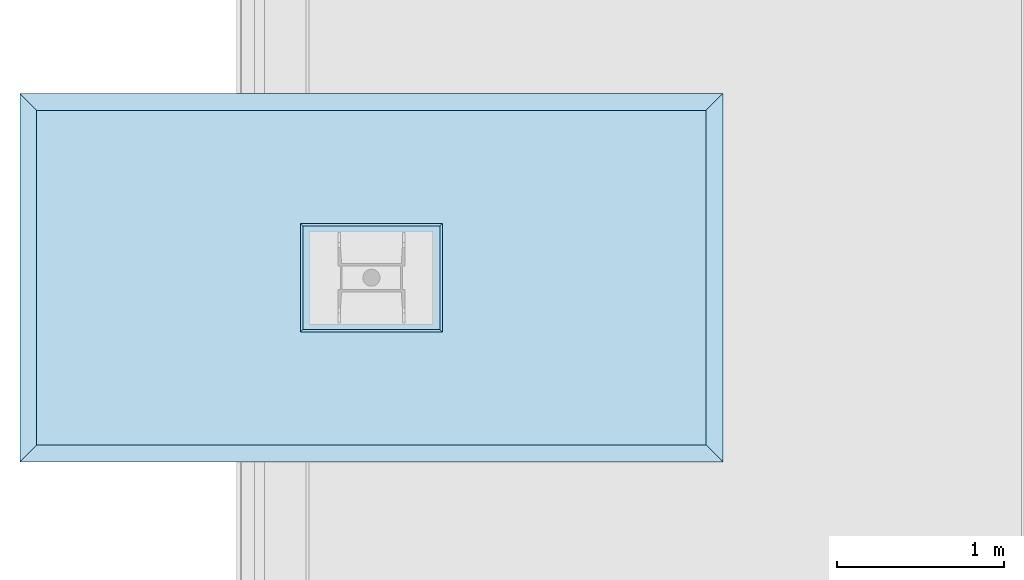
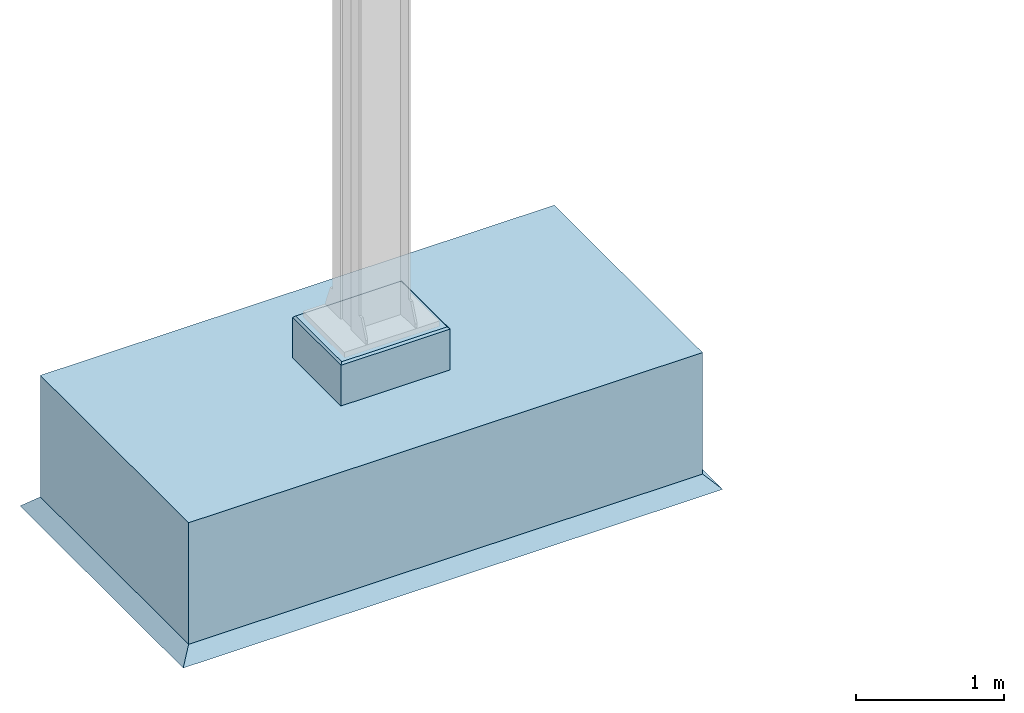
# One storey, incomplete: 1 slab.
"""IFC4 building model written with IfcOpenShell, lengths in metres."""

import ifcopenshell
import ifcopenshell.guid

model = None  # the IFC model being written
_history = None  # IfcOwnerHistory: only IFC2X3 demands one
_inside = {}  # id of a spatial element -> (the spatial element, [elements in it])
_under = {}  # id of a project, library or spatial element -> (it, [spatial elements below it])
_declared = {}  # id of a project -> (the project, [libraries it declares])
_typed = {}  # id of a type object -> (the type object, [elements of that type])
_made_of = {}  # id of a material, layer set ... -> (it, [elements and type objects made of it])


def new_model(schema):
    """Start an empty IFC model of exactly this schema.

    Asked for "IFC4X3", IfcOpenShell would pick the latest addendum, in which some entities
    have other attributes; the version numbers below select the first issue.
    IFC2X3 requires an IfcOwnerHistory on every rooted entity: one is made here for all.
    """
    global model, _history
    if schema == "IFC4X3":
        model = ifcopenshell.file(schema_version=(4, 3, 0, 0))
    else:
        model = ifcopenshell.file(schema=schema)
    _inside.clear()
    _under.clear()
    _declared.clear()
    _typed.clear()
    _made_of.clear()
    _history = None
    if model.schema == "IFC2X3":
        org = make("IfcOrganization", Name="unknown")
        user = make(
            "IfcPersonAndOrganization",
            ThePerson=make("IfcPerson", FamilyName="unknown"),
            TheOrganization=org,
        )
        app = make(
            "IfcApplication",
            ApplicationDeveloper=org,
            Version="unknown",
            ApplicationFullName="unknown",
            ApplicationIdentifier="unknown",
        )
        _history = make(
            "IfcOwnerHistory",
            OwningUser=user,
            OwningApplication=app,
            ChangeAction="ADDED",
            CreationDate=0,
        )
    return model


def make(cls, **values):
    """One entity of the class cls with the attributes given. An attribute that is None is left unset."""
    return model.create_entity(
        cls, **{name: value for name, value in values.items() if value is not None}
    )


def entity(cls, *values):
    """Any entity or typed value of the class cls, its attributes in the order of the schema. None: left unset."""
    e = model.create_entity(cls)
    for i, value in enumerate(values):
        if value is not None:
            e[i] = value
    return e


def rooted(cls, **values):
    """An entity with a GlobalId (a new one), such as an element, a storey or a relation."""
    return make(cls, GlobalId=ifcopenshell.guid.new(), OwnerHistory=_history, **values)


def si_unit(unit_type, name, prefix=None):
    """IfcSIUnit, for example si_unit("LENGTHUNIT", "METRE", prefix="MILLI")."""
    return make("IfcSIUnit", UnitType=unit_type, Prefix=prefix, Name=name)


def converted_unit(unit_type, name, factor, base, dimensions=None, offset=None):
    """IfcConversionBasedUnit, such as the inch: factor (a typed value) times the base unit."""
    return make(
        "IfcConversionBasedUnit"
        if offset is None
        else "IfcConversionBasedUnitWithOffset",
        ConversionOffset=offset,
        Dimensions=None
        if dimensions is None
        else entity("IfcDimensionalExponents", *dimensions),
        UnitType=unit_type,
        Name=name,
        ConversionFactor=make(
            "IfcMeasureWithUnit", ValueComponent=factor, UnitComponent=base
        ),
    )


def assignment(units):
    """IfcUnitAssignment: the units of a project."""
    return None if units is None else make("IfcUnitAssignment", Units=units)


def point(xyz):
    """IfcCartesianPoint."""
    return None if xyz is None else make("IfcCartesianPoint", Coordinates=xyz)


def direction(xyz):
    """IfcDirection."""
    return None if xyz is None else make("IfcDirection", DirectionRatios=xyz)


def frame(location, z_axis=None, x_axis=None):
    """IfcAxis2Placement3D, a coordinate frame: its origin and axes. An axis left out is left unset."""
    return make(
        "IfcAxis2Placement3D",
        Location=point(location),
        Axis=direction(z_axis),
        RefDirection=direction(x_axis),
    )


def origin():
    """The frame at (0, 0, 0) with its axes left unset."""
    return frame((0.0, 0.0, 0.0))


def place(relative_to, where):
    """IfcLocalPlacement: puts the frame where relative to a parent placement (None: the world)."""
    return make(
        "IfcLocalPlacement", PlacementRelTo=relative_to, RelativePlacement=where
    )


def context(
    kind, dimensions, precision=None, world=None, true_north=None, identifier=None
):
    """IfcGeometricRepresentationContext, for example the 3D "Model" context."""
    return make(
        "IfcGeometricRepresentationContext",
        ContextIdentifier=identifier,
        ContextType=kind,
        CoordinateSpaceDimension=dimensions,
        Precision=precision,
        WorldCoordinateSystem=world,
        TrueNorth=true_north,
    )


def subcontext(parent, identifier, kind, view, scale=None):
    """IfcGeometricRepresentationSubContext, for example "Body" below "Model"."""
    return make(
        "IfcGeometricRepresentationSubContext",
        ContextIdentifier=identifier,
        ContextType=kind,
        ParentContext=parent,
        TargetScale=scale,
        TargetView=view,
    )


def project(units=None, contexts=None):
    """IfcProject with its units and contexts."""
    return rooted(
        "IfcProject",
        Name="project",
        RepresentationContexts=contexts,
        UnitsInContext=assignment(units),
    )


def spatial(cls, under=None, at=None, **own):
    """A site, building, storey or space (cls), placed at a placement, below another one or the project."""
    s = rooted(cls, ObjectPlacement=at, **own)
    if under is not None:
        _under.setdefault(under.id(), (under, []))[1].append(s)
    return s


def point_list(points):
    """IfcCartesianPointList2D or 3D."""
    cls = (
        "IfcCartesianPointList2D" if len(points[0]) == 2 else "IfcCartesianPointList3D"
    )
    return make(cls, CoordList=points)


def polygons(points, faces, closed=None, point_numbers=None):
    """IfcPolygonalFaceSet: a face is its outer loop, then its inner loops; points numbered from 1."""
    made = []
    for loops in faces:
        if len(loops) == 1:
            made.append(make("IfcIndexedPolygonalFace", CoordIndex=loops[0]))
        else:
            made.append(
                make(
                    "IfcIndexedPolygonalFaceWithVoids",
                    CoordIndex=loops[0],
                    InnerCoordIndices=loops[1:],
                )
            )
    return make(
        "IfcPolygonalFaceSet",
        Coordinates=point_list(points),
        Closed=closed,
        Faces=made,
        PnIndex=point_numbers,
    )


def shape(context_of_items, identifier, shape_type, items):
    """IfcShapeRepresentation: the items that make up one representation, for example the "Body"."""
    return make(
        "IfcShapeRepresentation",
        ContextOfItems=context_of_items,
        RepresentationIdentifier=identifier,
        RepresentationType=shape_type,
        Items=items,
    )


def material(Name=None, Category=None):
    """IfcMaterial."""
    return make("IfcMaterial", Name=Name, Category=Category)


def made_of(thing, what):
    """Note that an element or type object is made of a material, layer set ...; save() writes the relation."""
    if what is not None:
        _made_of.setdefault(what.id(), (what, []))[1].append(thing)
    return thing


def type_object(cls, material=None, **own):
    """A type object (cls), such as IfcWallType, which elements share."""
    return made_of(rooted(cls, **own), material)


def element(
    cls,
    number,
    at=None,
    inside=None,
    cuts=None,
    type_object=None,
    material=None,
    context=None,
    identifier="Body",
    shape_type=None,
    held_by="IfcProductDefinitionShape",
    body=None,
    shapes=None,
    **own,
):
    """One element of the class cls, such as IfcWall. Its Tag is "e" and its number.

    at: its placement. inside: the storey or other place that contains it. cuts: it is an
    opening in that element (IfcRelVoidsElement). A single representation is given by context,
    identifier, shape_type and body (its items); several are given by shapes. held_by: the class
    of the entity that holds the representations. save() writes the other relations.
    """
    e = rooted(cls, Tag="e%d" % number, ObjectPlacement=at, **own)
    if body is not None:
        shapes = [shape(context, identifier, shape_type, body)]
    if shapes is not None:
        e.Representation = make(held_by, Representations=shapes)
    if inside is not None:
        _inside.setdefault(inside.id(), (inside, []))[1].append(e)
    if cuts is not None:
        rooted(
            "IfcRelVoidsElement", RelatingBuildingElement=cuts, RelatedOpeningElement=e
        )
    if type_object is not None:
        _typed.setdefault(type_object.id(), (type_object, []))[1].append(e)
    return made_of(e, material)


def aggregate(whole, parts):
    """IfcRelAggregates: a whole, such as a stair, and the parts it consists of."""
    return rooted("IfcRelAggregates", RelatingObject=whole, RelatedObjects=parts)


def save(model, path):
    """Write the relations noted so far, then the file.

    IfcRelAggregates (storeys below a building ...), IfcRelContainedInSpatialStructure (elements
    in a storey), IfcRelDefinesByType, IfcRelAssociatesMaterial and IfcRelDeclares: one each for
    every whole, place, type object, material and project.
    """
    for whole, parts in _under.values():
        aggregate(whole, parts)
    for where, things in _inside.values():
        rooted(
            "IfcRelContainedInSpatialStructure",
            RelatedElements=things,
            RelatingStructure=where,
        )
    for kind, things in _typed.values():
        rooted("IfcRelDefinesByType", RelatedObjects=things, RelatingType=kind)
    for what, things in _made_of.values():
        rooted("IfcRelAssociatesMaterial", RelatedObjects=things, RelatingMaterial=what)
    for by, libraries in _declared.values():
        rooted("IfcRelDeclares", RelatingContext=by, RelatedDefinitions=libraries)
    model.write(path)


model = new_model("IFC4")

# Units and contexts
model_context = context("Model", 3, precision=1e-05, world=origin(), true_north=direction((6.123031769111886e-17, 1.0)))
body_context = subcontext(model_context, "Body", "Model", "MODEL_VIEW")
ifc_project = project(units=[si_unit("LENGTHUNIT", "METRE"), converted_unit("PLANEANGLEUNIT", "DEGREE", entity("IfcPlaneAngleMeasure", 0.017453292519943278), si_unit("PLANEANGLEUNIT", "RADIAN"), dimensions=[0, 0, 0, 0, 0, 0, 0])], contexts=[model_context])

# Site, building, storey
site_placement = place(None, origin())
site = spatial("IfcSite", under=ifc_project, at=site_placement, Name="Default", CompositionType="ELEMENT")
building_placement = place(site_placement, origin())
building = spatial("IfcBuilding", under=site, at=building_placement, CompositionType="ELEMENT")
storey_placement = place(building_placement, origin())
storey = spatial("IfcBuildingStorey", under=building, at=storey_placement, Name="DB_Bezugshoehe_max_Bahnsteigkante", CompositionType="ELEMENT", Elevation=0.0)

# Slab
ifc_material = material(Name="DB_Ortbeton", Category="DB_Beton")
slab_type = type_object("IfcSlabType", Name="DB_Systemdach_Fundament_Typ4:Variante1", PredefinedType="BASESLAB", material=ifc_material)
slab_placement = place(storey_placement, origin())
element("IfcSlab", 1, at=slab_placement, inside=storey, type_object=slab_type, Name="DB_Systemdach_Fundament_Typ4:Variante1", ObjectType="DB_Systemdach_Fundament_Typ4:Variante1", PredefinedType="BASESLAB", context=body_context, shape_type="Tessellation", body=[
    polygons([(1.9999999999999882, 1.000000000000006, -0.25000000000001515), (-2.0000000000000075, 1.000000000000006, -0.25000000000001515), (-2.0000000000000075, -0.9999999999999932, -0.25000000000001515), (1.9999999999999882, -0.9999999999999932, -0.25000000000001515), (1.9999999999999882, 1.000000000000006, -1.2500000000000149), (1.9999999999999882, -0.9999999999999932, -1.2500000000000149), (-2.0000000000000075, -0.9999999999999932, -1.2500000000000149), (-2.0000000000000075, 1.000000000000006, -1.2500000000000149)], [[[1, 2, 3, 4]], [[5, 6, 7, 8]], [[2, 1, 5, 8]], [[3, 2, 8, 7]], [[4, 3, 7, 6]], [[1, 4, 6, 5]]], closed=True),
    polygons([(1.999999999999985, 1.000000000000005, -1.2500000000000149), (-2.000000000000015, 1.000000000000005, -1.2500000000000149), (-2.000000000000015, -1.000000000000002, -1.2500000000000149), (1.999999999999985, -1.0000000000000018, -1.2500000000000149), (2.099999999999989, 1.100000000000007, -1.350000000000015), (2.0999999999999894, -1.1000000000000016, -1.350000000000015), (-2.1000000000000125, -1.1000000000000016, -1.350000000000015), (-2.100000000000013, 1.100000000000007, -1.350000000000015)], [[[1, 2, 3, 4]], [[5, 6, 7, 8]], [[5, 8, 2, 1]], [[8, 7, 3, 2]], [[7, 6, 4, 3]], [[6, 5, 1, 4]]], closed=True),
    polygons([(0.42499999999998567, 0.3249999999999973, 0.08500000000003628), (-0.4250000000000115, 0.3249999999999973, 0.08500000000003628), (-0.4250000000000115, -0.3249999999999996, 0.08500000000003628), (0.42499999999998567, -0.3249999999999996, 0.08500000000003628), (0.42499999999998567, 0.3249999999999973, -0.25000000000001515), (0.42499999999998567, -0.3249999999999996, -0.25000000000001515), (-0.4250000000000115, -0.3249999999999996, -0.25000000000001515), (-0.4250000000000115, 0.3249999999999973, -0.25000000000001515)], [[[1, 2, 3, 4]], [[5, 6, 7, 8]], [[2, 1, 5, 8]], [[3, 2, 8, 7]], [[4, 3, 7, 6]], [[1, 4, 6, 5]]], closed=True),
    polygons([(-0.4100000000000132, 0.3100000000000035, 0.099999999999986), (-0.41000000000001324, -0.30999999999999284, 0.099999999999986), (0.40999999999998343, -0.30999999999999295, 0.09999999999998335), (0.4099999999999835, 0.3100000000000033, 0.09999999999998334), (-0.42500000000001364, 0.3249999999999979, 0.08500000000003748), (0.4249999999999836, 0.3249999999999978, 0.08500000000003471), (0.42499999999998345, -0.3249999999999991, 0.08500000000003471), (-0.42500000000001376, -0.324999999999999, 0.08500000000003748)], [[[1, 2, 3, 4]], [[5, 6, 7, 8]], [[6, 5, 1, 4]], [[7, 6, 4, 3]], [[8, 7, 3, 2]], [[5, 8, 2, 1]]], closed=True),
])

save(model, "model.ifc")
